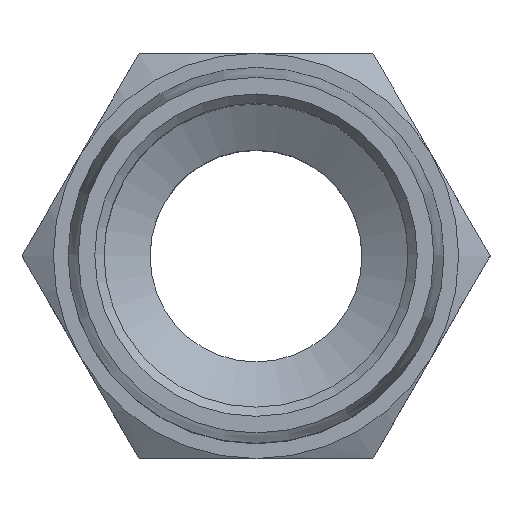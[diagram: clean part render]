
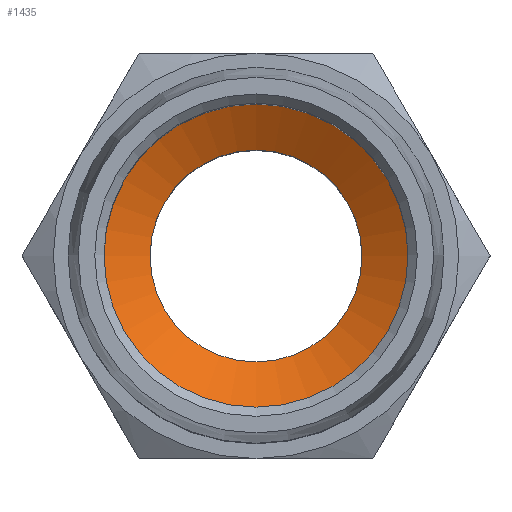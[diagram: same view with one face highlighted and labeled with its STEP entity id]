
A CAD part, top view. The second image highlights one B-rep face of the part: STEP entity #1435.
In plain terms, the highlighted conical face has half-angle 60 degrees and reference radius 8.25 mm.
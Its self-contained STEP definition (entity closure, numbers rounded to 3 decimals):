
#704=CONICAL_SURFACE('',#1379,8.25,60.);
#824=ORIENTED_EDGE('',*,*,#966,.F.);
#825=ORIENTED_EDGE('',*,*,#967,.T.);
#860=CIRCLE('',#1378,8.25);
#861=CIRCLE('',#1380,5.75);
#904=VERTEX_POINT('',#1579);
#905=VERTEX_POINT('',#1582);
#966=EDGE_CURVE('',#904,#904,#860,.T.);
#967=EDGE_CURVE('',#905,#905,#861,.T.);
#1022=EDGE_LOOP('',(#824));
#1023=EDGE_LOOP('',(#825));
#1082=FACE_BOUND('',#1022,.F.);
#1083=FACE_BOUND('',#1023,.F.);
#1274=DIRECTION('',(0.,1.,0.));
#1275=DIRECTION('',(8.25,0.,0.));
#1276=DIRECTION('',(0.,1.,0.));
#1277=DIRECTION('',(1.,0.,0.));
#1278=DIRECTION('',(0.,1.,0.));
#1279=DIRECTION('',(5.75,0.,0.));
#1378=AXIS2_PLACEMENT_3D('',#1580,#1274,#1275);
#1379=AXIS2_PLACEMENT_3D('',#1581,#1276,#1277);
#1380=AXIS2_PLACEMENT_3D('',#1583,#1278,#1279);
#1435=ADVANCED_FACE('',(#1082,#1083),#704,.F.);
#1579=CARTESIAN_POINT('',(33.52,45.538,0.));
#1580=CARTESIAN_POINT('',(25.27,45.538,0.));
#1581=CARTESIAN_POINT('',(25.27,45.538,0.));
#1582=CARTESIAN_POINT('',(31.02,44.095,0.));
#1583=CARTESIAN_POINT('',(25.27,44.095,0.));
